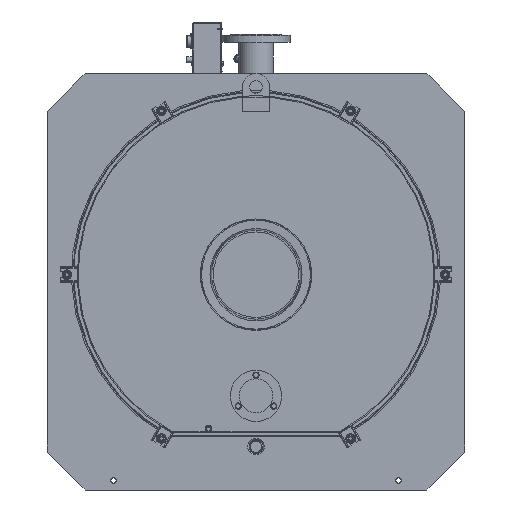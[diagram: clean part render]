
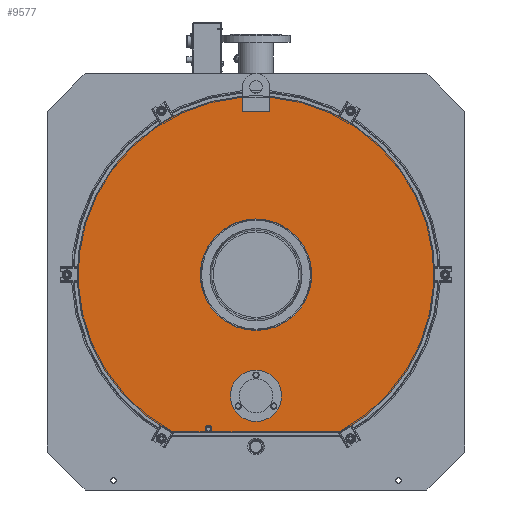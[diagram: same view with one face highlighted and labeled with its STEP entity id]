
A CAD part, left-side view. The second image highlights one B-rep face of the part: STEP entity #9577.
In plain terms, the highlighted planar face has unit normal (-1, 0, 0).
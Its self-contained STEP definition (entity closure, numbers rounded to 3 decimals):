
#9577=ADVANCED_FACE('',(#38736,#38738,#38740),#38742,.T.);
#38736=FACE_BOUND('',#38737,.T.);
#38737=EDGE_LOOP('',(#72223,#72224,#72225,#72226,#72227,#72228,#72229,#72230,#72231,
#72232));
#38738=FACE_BOUND('',#38739,.T.);
#38739=EDGE_LOOP('',(#72233));
#38740=FACE_BOUND('',#38741,.T.);
#38741=EDGE_LOOP('',(#72234));
#38742=PLANE('',#38743);
#38743=AXIS2_PLACEMENT_3D('',#38744,#38745,#38746);
#38744=CARTESIAN_POINT('',(-2218.,0.,0.));
#38745=DIRECTION('',(-1.,0.,0.));
#38746=DIRECTION('',(0.,-1.,0.));
#72223=ORIENTED_EDGE('',*,*,#84545,.F.);
#72224=ORIENTED_EDGE('',*,*,#84546,.F.);
#72225=ORIENTED_EDGE('',*,*,#84547,.F.);
#72226=ORIENTED_EDGE('',*,*,#84548,.T.);
#72227=ORIENTED_EDGE('',*,*,#84535,.T.);
#72228=ORIENTED_EDGE('',*,*,#84527,.T.);
#72229=ORIENTED_EDGE('',*,*,#84504,.T.);
#72230=ORIENTED_EDGE('',*,*,#84539,.T.);
#72231=ORIENTED_EDGE('',*,*,#84533,.T.);
#72232=ORIENTED_EDGE('',*,*,#84549,.T.);
#72233=ORIENTED_EDGE('',*,*,#84518,.T.);
#72234=ORIENTED_EDGE('',*,*,#84550,.F.);
#84504=EDGE_CURVE('',#93248,#93246,#93249,.F.);
#84518=EDGE_CURVE('',#93275,#93275,#93276,.F.);
#84527=EDGE_CURVE('',#93293,#93248,#93294,.F.);
#84533=EDGE_CURVE('',#93305,#93303,#93306,.T.);
#84535=EDGE_CURVE('',#93308,#93293,#93309,.T.);
#84539=EDGE_CURVE('',#93246,#93305,#93315,.F.);
#84545=EDGE_CURVE('',#93324,#93325,#93326,.T.);
#84546=EDGE_CURVE('',#93327,#93324,#93328,.T.);
#84547=EDGE_CURVE('',#93329,#93327,#93330,.T.);
#84548=EDGE_CURVE('',#93329,#93308,#93331,.T.);
#84549=EDGE_CURVE('',#93303,#93325,#93332,.T.);
#84550=EDGE_CURVE('',#93333,#93333,#93334,.T.);
#93246=VERTEX_POINT('',#112772);
#93248=VERTEX_POINT('',#112776);
#93249=CIRCLE('',#112777,11.);
#93275=VERTEX_POINT('',#113352);
#93276=CIRCLE('',#113353,176.);
#93293=VERTEX_POINT('',#113651);
#93294=LINE('',#113652,#113653);
#93303=VERTEX_POINT('',#113671);
#93305=VERTEX_POINT('',#113675);
#93306=LINE('',#113676,#113677);
#93308=VERTEX_POINT('',#113682);
#93309=LINE('',#113683,#113684);
#93315=LINE('',#113697,#113698);
#93324=VERTEX_POINT('',#113750);
#93325=VERTEX_POINT('',#113751);
#93326=LINE('',#113752,#113753);
#93327=VERTEX_POINT('',#113755);
#93328=LINE('',#113756,#113757);
#93329=VERTEX_POINT('',#113759);
#93330=LINE('',#113760,#113761);
#93331=CIRCLE('',#113763,565.);
#93332=CIRCLE('',#113767,565.);
#93333=VERTEX_POINT('',#113771);
#93334=CIRCLE('',#113772,81.);
#112772=CARTESIAN_POINT('',(-2218.,145.417,-496.5));
#112776=CARTESIAN_POINT('',(-2218.,154.583,-496.5));
#112777=AXIS2_PLACEMENT_3D('',#112778,#112779,#112780);
#112778=CARTESIAN_POINT('',(-2218.,150.,-486.5));
#112779=DIRECTION('',(-1.,0.,0.));
#112780=DIRECTION('',(0.,-0.417,-0.909));
#113352=CARTESIAN_POINT('',(-2218.,-176.,0.));
#113353=AXIS2_PLACEMENT_3D('',#113354,#113355,#113356);
#113354=CARTESIAN_POINT('',(-2218.,0.,0.));
#113355=DIRECTION('',(-1.,0.,0.));
#113356=DIRECTION('',(0.,-1.,0.));
#113651=CARTESIAN_POINT('',(-2218.,154.583,-497.5));
#113652=CARTESIAN_POINT('',(-2218.,154.583,-496.5));
#113653=VECTOR('',#113654,1.);
#113654=DIRECTION('',(0.,0.,-1.));
#113671=CARTESIAN_POINT('',(-2218.,-267.804,-497.5));
#113675=CARTESIAN_POINT('',(-2218.,145.417,-497.5));
#113676=CARTESIAN_POINT('',(-2218.,145.417,-497.5));
#113677=VECTOR('',#113678,1.);
#113678=DIRECTION('',(0.,-1.,0.));
#113682=CARTESIAN_POINT('',(-2218.,267.804,-497.5));
#113683=CARTESIAN_POINT('',(-2218.,267.804,-497.5));
#113684=VECTOR('',#113685,1.);
#113685=DIRECTION('',(0.,-1.,0.));
#113697=CARTESIAN_POINT('',(-2218.,145.417,-497.5));
#113698=VECTOR('',#113699,1.);
#113699=DIRECTION('',(0.,0.,1.));
#113750=CARTESIAN_POINT('',(-2218.,-43.,517.));
#113751=CARTESIAN_POINT('',(-2218.,-43.,563.361));
#113752=CARTESIAN_POINT('',(-2218.,-43.,517.));
#113753=VECTOR('',#113754,1.);
#113754=DIRECTION('',(0.,0.,1.));
#113755=CARTESIAN_POINT('',(-2218.,43.,517.));
#113756=CARTESIAN_POINT('',(-2218.,43.,517.));
#113757=VECTOR('',#113758,1.);
#113758=DIRECTION('',(0.,-1.,0.));
#113759=CARTESIAN_POINT('',(-2218.,43.,563.361));
#113760=CARTESIAN_POINT('',(-2218.,43.,563.361));
#113761=VECTOR('',#113762,1.);
#113762=DIRECTION('',(0.,0.,-1.));
#113763=AXIS2_PLACEMENT_3D('',#113764,#113765,#113766);
#113764=CARTESIAN_POINT('',(-2218.,0.,0.));
#113765=DIRECTION('',(-1.,0.,0.));
#113766=DIRECTION('',(0.,0.076,0.997));
#113767=AXIS2_PLACEMENT_3D('',#113768,#113769,#113770);
#113768=CARTESIAN_POINT('',(-2218.,0.,0.));
#113769=DIRECTION('',(-1.,0.,0.));
#113770=DIRECTION('',(0.,-0.474,-0.881));
#113771=CARTESIAN_POINT('',(-2218.,-81.,-382.5));
#113772=AXIS2_PLACEMENT_3D('',#113773,#113774,#113775);
#113773=CARTESIAN_POINT('',(-2218.,0.,-382.5));
#113774=DIRECTION('',(-1.,0.,0.));
#113775=DIRECTION('',(0.,-1.,0.));
